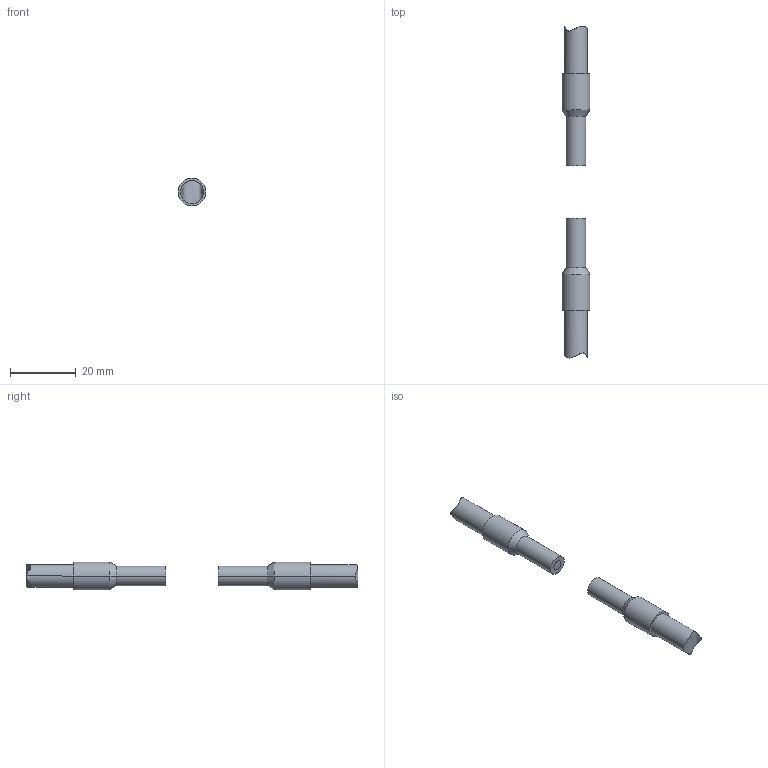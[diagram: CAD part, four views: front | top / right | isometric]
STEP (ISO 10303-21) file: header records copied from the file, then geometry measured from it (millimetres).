
FILE_DESCRIPTION((''),'2;1');
FILE_NAME('0000472843_PRT','2022-01-13T10:00:21',('pdmservice'),(''),'CREO PARAMETRIC BY PTC INC, 2018420','CREO PARAMETRIC BY PTC INC, 2018420','');
FILE_SCHEMA(('AUTOMOTIVE_DESIGN { 1 0 10303 214 1 1 1 1 }'));
Length unit declared in the file: millimetre
Products named in the file (1): 0000472843_PRT
Bounding box: 8.5 x 101.1 x 8.5 mm (x, y, z)
Volume: 3327.6 mm3; surface area: 2050.9 mm2
Topology: 2 solids, 2 shells, 28 faces, 52 edges, 32 vertices
Faces by surface type: cylinder 16, plane 6, cone 4, extrusion 2
Entity records: 2070 total; most frequent: CARTESIAN_POINT 348, DIRECTION 130, PROPERTY_DEFINITION 122, REPRESENTATION 121, PROPERTY_DEFINITION_REPRESENTATION 121, DESCRIPTIVE_REPRESENTATION_ITEM 109, ORIENTED_EDGE 104, GENERAL_PROPERTY 104
